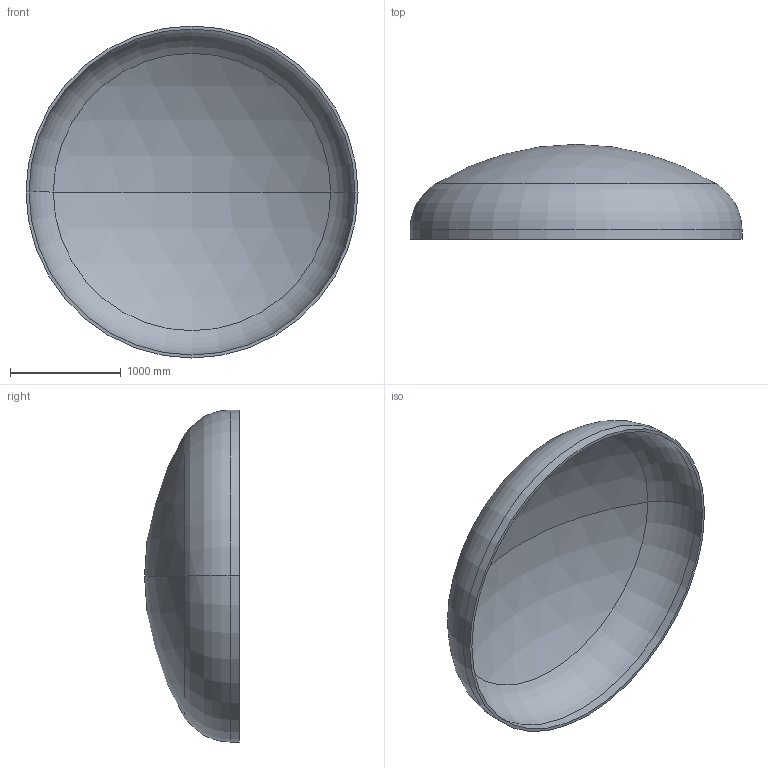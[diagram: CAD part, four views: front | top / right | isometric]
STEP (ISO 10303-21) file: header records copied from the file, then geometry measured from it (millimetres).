
FILE_DESCRIPTION (( 'STEP AP203' ), '1' );
FILE_NAME ('DIN 28013 Korbbogenform_-_Boden DIN 28013 - 3000 x 85 - I - s=27.step', '2016-07-01T17:38:19', ( '' ), ( '' ), 'SwSTEP 2.0', 'SolidWorks 2013', '' );
FILE_SCHEMA (( 'CONFIG_CONTROL_DESIGN' ));
Length unit declared in the file: millimetre
Products named in the file (1): DIN 28013 Korbbogenform_-_Boden DIN 28013 - 3000 x 85 - I - s=27
Bounding box: 3000 x 857.48 x 3000 mm (x, y, z)
Volume: 282413866.2 mm3; surface area: 21173243.4 mm2
Topology: 1 solids, 1 shells, 13 faces, 24 edges, 14 vertices
Faces by surface type: torus 4, cylinder 4, sphere 4, plane 1
Entity records: 407 total; most frequent: DIRECTION 72, CARTESIAN_POINT 52, ORIENTED_EDGE 48, AXIS2_PLACEMENT_3D 34, EDGE_CURVE 24, CIRCLE 20, EDGE_LOOP 14, VERTEX_POINT 14
